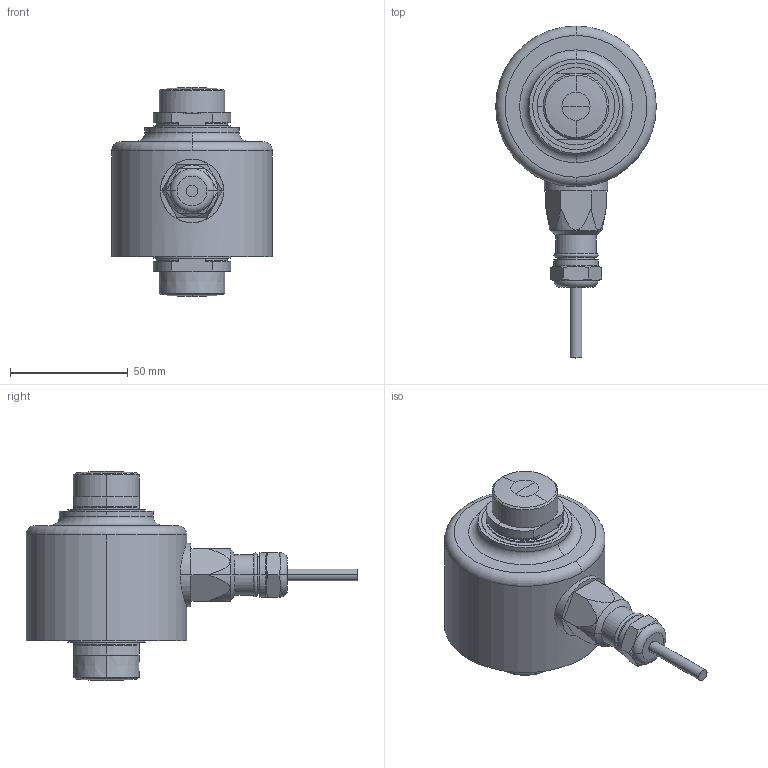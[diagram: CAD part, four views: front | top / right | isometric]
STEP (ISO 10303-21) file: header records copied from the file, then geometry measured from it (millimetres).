
FILE_DESCRIPTION (( 'STEP AP214' ), '1' );
FILE_NAME ('SM63-7,5t-15t-22,5t.STEP', '2010-12-16T14:53:31', ( 'D. Hüttmann' ), ( 'Microsoft' ), 'SwSTEP 2.0', 'SolidWorks 2010', '' );
FILE_SCHEMA (( 'AUTOMOTIVE_DESIGN' ));
Length unit declared in the file: millimetre
Products named in the file (1): SM63-7,5t-15t-22,5t
Bounding box: 68.3 x 141.12 x 88.9 mm (x, y, z)
Volume: 216959.1 mm3; surface area: 25469.4 mm2
Topology: 1 solids, 1 shells, 113 faces, 280 edges, 181 vertices
Faces by surface type: cylinder 34, plane 34, torus 22, cone 19, sphere 4
Entity records: 3731 total; most frequent: CARTESIAN_POINT 985, DIRECTION 605, ORIENTED_EDGE 560, EDGE_CURVE 280, AXIS2_PLACEMENT_3D 255, VERTEX_POINT 181, CIRCLE 141, EDGE_LOOP 125
